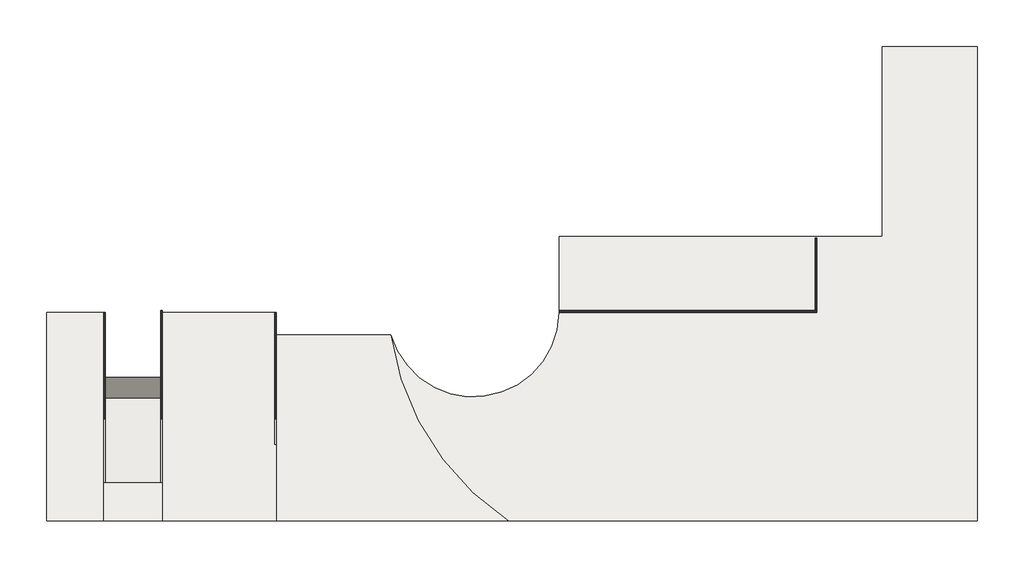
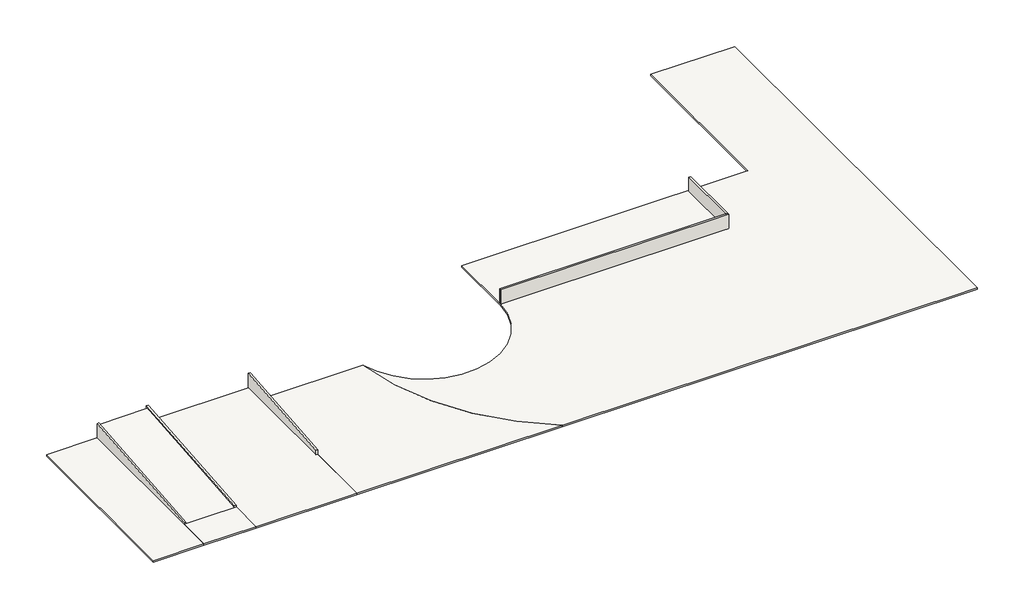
# One storey: 6 slabs, 5 walls.
"""IFC4 building model written with IfcOpenShell, lengths in millimetres."""

from ifc_helpers import new_model, si_unit, point, frame, frame_2d, origin, place, context, project, spatial, polyline, circle_curve, trimmed, segment, composite_curve, outline, extrude, faceted_brep, element, save
from ifc_brep_helpers import plane_surface, revolved_surface, advanced_brep

model = new_model("IFC4")

# Units and contexts
model_context = context("Model", 3, world=origin())
ifc_project = project(units=[si_unit("LENGTHUNIT", "METRE", prefix="MILLI")], contexts=[model_context])

# Site, building, storey
site = spatial("IfcSite", under=ifc_project)
building = spatial("IfcBuilding", under=site)
storey = spatial("IfcBuildingStorey", under=building, Name="b-st lvl", Elevation=-2590.8)

# Slabs
placement = place(None, origin())
element("IfcSlab", 1, ObjectType="a_drive", at=placement, inside=storey, context=model_context, shape_type="SweptSolid", body=[
    extrude(outline(polyline([(5654.8071029, -458.4117136), (-21664.2841582, -2896.8117136), (-21664.2841582, -2590.8), (5654.8071029, -152.4), (5654.8071029, -458.4117136)])), frame((-165310.490902, 0.0, 0.0), z_axis=(1.0, 0.0, 0.0), x_axis=(0.0, 1.0, 0.0)), (0.0, 0.0, 1.0), 8839.2),
])
element("IfcSlab", 2, ObjectType="a_drive", at=placement, inside=storey, context=model_context, shape_type="SweptSolid", body=[
    extrude(outline(polyline([(-165615.290902, -21664.2841582), (-156166.490902, -21664.2841582), (-156166.490902, -27873.1928971), (-165615.290902, -27873.1928971), (-165615.290902, -21664.2841582)])), frame((0.0, 0.0, -2895.6), z_axis=(0.0, 0.0, 1.0), x_axis=(1.0, 0.0, 0.0)), (0.0, 0.0, 1.0), 304.8),
])
element("IfcSlab", 3, ObjectType="a_site field", at=placement, inside=storey, context=model_context, shape_type="SweptSolid", body=[
    extrude(outline(composite_curve([segment(polyline([(-92463.290902, 17846.8071029), (-40647.290902, 17846.8071029), (-40647.290902, 48326.8071029), (-25407.290902, 48326.8071029), (-25407.290902, -27873.1928971), (-100689.4490619, -27873.1928971)]), True, "CONTINUOUS"), segment(trimmed(circle_curve(frame_2d((-77509.2044068, 7603.3217997)), 42378.1410317), [point((-100689.4490619, -27873.1928971))], [point((-119518.2803402, 2022.607103))], False, "CARTESIAN"), True, "CONTINUOUS"), segment(trimmed(circle_curve(frame_2d((-106262.3019593, 5863.5244654)), 13801.2176644), [point((-119518.2803402, 2022.607103))], [point((-92463.290902, 5616.7394142))], True, "CARTESIAN"), True, "CONTINUOUS"), segment(polyline([(-92463.290902, 5616.7394142), (-92463.290902, 17846.8071029)]), True, "CONTINUOUS")], self_intersect=False)), frame((0.0, 0.0, -2895.6), z_axis=(0.0, 0.0, 1.0), x_axis=(1.0, 0.0, 0.0)), (0.0, 0.0, 1.0), 304.8),
])
element("IfcSlab", 4, ObjectType="a_site field", at=placement, inside=storey, context=model_context, shape_type="SweptSolid", body=[
    extrude(outline(polyline([(-174759.290902, 5654.8071029), (-165615.290902, 5654.8071029), (-165615.290902, -27873.1928971), (-174759.290902, -27873.1928971), (-174759.290902, 5654.8071029)])), frame((0.0, 0.0, -2895.6), z_axis=(0.0, 0.0, 1.0), x_axis=(1.0, 0.0, 0.0)), (0.0, 0.0, 1.0), 304.8),
])
element("IfcSlab", 5, ObjectType="a_site field", at=placement, inside=storey, context=model_context, shape_type="SweptSolid", body=[
    extrude(outline(polyline([(-156166.490902, 5654.8071029), (-137878.490902, 5654.8071029), (-137878.490902, -27873.1928971), (-156166.490902, -27873.1928971), (-156166.490902, 5654.8071029)])), frame((0.0, 0.0, -2895.6), z_axis=(0.0, 0.0, 1.0), x_axis=(1.0, 0.0, 0.0)), (0.0, 0.0, 1.0), 304.8),
])
element("IfcSlab", 6, ObjectType="a_site paving", at=placement, inside=storey, context=model_context, shape_type="SweptSolid", body=[
    extrude(outline(composite_curve([segment(polyline([(-137878.490902, 2022.6071029), (-119518.2803402, 2022.6071029)]), True, "CONTINUOUS"), segment(trimmed(circle_curve(frame_2d((-76680.581577, 8125.201109)), 43270.1986236), [point((-119518.2803402, 2022.6071029))], [point((-100689.4490619, -27873.1928971))], True, "CARTESIAN"), True, "CONTINUOUS"), segment(polyline([(-100689.4490619, -27873.1928971), (-137878.490902, -27873.1928971), (-137878.490902, 2022.6071029)]), True, "CONTINUOUS")], self_intersect=False)), frame((0.0, 0.0, -2895.6), z_axis=(0.0, 0.0, 1.0), x_axis=(1.0, 0.0, 0.0)), (0.0, 0.0, 1.0), 304.8),
])

# Walls
element("IfcWall", 7, ObjectType="Generic - 12\"", at=placement, inside=storey, context=model_context, shape_type="SweptSolid", body=[
    extrude(outline(polyline([(-21664.2841582, -2590.8), (-21664.2841582, -2286.0), (5654.8071029, 138.8728072), (5654.8071029, -2590.8), (-21664.2841582, -2590.8)])), frame((-165615.290902, 0.0, 0.0), z_axis=(1.0, 0.0, 0.0), x_axis=(0.0, 1.0, 0.0)), (0.0, 0.0, 1.0), 304.8),
])
element("IfcWall", 8, ObjectType="Generic - 12\"", at=placement, inside=storey, context=model_context, shape_type="Brep", body=[
    faceted_brep([(-156166.490902, -21664.2841582, -2590.8), (-156166.490902, 5959.6071029, -2590.8), (-156166.490902, 5959.6071029, 152.4), (-156166.490902, 5959.6071029, 165.9271928), (-156166.490902, -21664.2841582, -2286.0), (-156471.290902, -21664.2841582, -2590.8), (-156471.290902, -21664.2841582, -2286.0), (-156471.290902, 5959.6071029, 165.9271928), (-156471.290902, 5959.6071029, 152.4), (-156471.290902, 5959.6071029, -152.4), (-156471.290902, 5959.6071029, -2590.8)], [[[0, 1, 2, 3, 4]], [[5, 6, 7, 8, 9, 10]], [[1, 0, 5, 10]], [[4, 3, 7, 6]], [[0, 4, 6, 5]], [[3, 2, 1, 10, 9, 8, 7]]]),
])
element("IfcWall", 9, ObjectType="Generic - 12\"", at=placement, inside=storey, context=model_context, shape_type="SweptSolid", body=[
    extrude(outline(polyline([(-15568.2841582, -2590.8), (-15568.2841582, -1744.9122862), (5654.8071029, 138.8728072), (5654.8071029, -2590.8), (-15568.2841582, -2590.8)])), frame((-138183.290902, 0.0, 0.0), z_axis=(1.0, 0.0, 0.0), x_axis=(0.0, 1.0, 0.0)), (0.0, 0.0, 1.0), 304.8),
])
element("IfcWall", 10, ObjectType="a_panel enamel", at=placement, inside=storey, context=model_context, shape_type="SweptSolid", body=[
    extrude(outline(polyline([(-51162.890902, 17542.0071029), (-51162.890902, 5959.6071029), (-51467.690902, 5959.6071029), (-51467.690902, 17542.0071029), (-51162.890902, 17542.0071029)])), frame((0.0, 0.0, -2590.8), z_axis=(0.0, 0.0, 1.0), x_axis=(1.0, 0.0, 0.0)), (0.0, 0.0, 1.0), 2743.2),
])
element("IfcWall", 11, ObjectType="a_panel enamel", at=placement, inside=storey, context=model_context, shape_type="AdvancedBrep", body=[
    advanced_brep(
    [(-51162.890902, 5959.6071029, -2590.8), (-51467.690902, 5959.6071029, -2590.8), (-92463.290902, 5959.6071029, -2590.8), (-92463.290902, 5959.6071029, 152.4), (-51467.690902, 5959.6071029, 152.4), (-51162.890902, 5959.6071029, 152.4), (-51162.890902, 5654.8071029, -2590.8), (-51162.890902, 5654.8071029, 152.4), (-92464.1329167, 5654.8071029, 152.4), (-92464.1329167, 5654.8071029, -2590.8), (-92463.290902, 5807.2071029, -2590.8), (-92463.290902, 5807.2071029, 152.4)],
    [
        (0, 1),
        (1, 2),
        (2, 3),
        (3, 4),
        (4, 5),
        (5, 0),
        (6, 7),
        (7, 8),
        (8, 9),
        (9, 6),
        (0, 6),
        (9, 10, circle_curve(frame((-106255.490902, 5807.2071029, -2590.8), z_axis=(0.0, 0.0, 1.0), x_axis=(0.0, -1.0, 0.0)), 13792.2)),
        (10, 2),
        (3, 11),
        (11, 8, circle_curve(frame((-106255.490902, 5807.2071029, 152.4), z_axis=(0.0, 0.0, -1.0), x_axis=(0.0, -1.0, 0.0)), 13792.2)),
        (7, 5),
        (10, 11),
    ],
    [
        plane_surface(frame((-51315.290902, 5959.6071029, -2590.8), z_axis=(0.0, 1.0, 0.0), x_axis=(-1.0, 0.0, 0.0))),
        plane_surface(frame((-51315.290902, 5654.8071029, -2590.8), z_axis=(0.0, -1.0, 0.0), x_axis=(1.0, 0.0, 0.0))),
        plane_surface(frame((-51315.290902, 5959.6071029, -2590.8), z_axis=(0.0, 0.0, -1.0), x_axis=(0.0, -1.0, 0.0))),
        plane_surface(frame((-92615.690902, 5959.6071029, 152.4), z_axis=(0.0, 0.0, 1.0), x_axis=(0.0, -1.0, 0.0))),
        plane_surface(frame((-51162.890902, 8855.2071029, -2590.8), z_axis=(1.0, 0.0, 0.0), x_axis=(0.0, 1.0, 0.0))),
        plane_surface(frame((-92463.290902, 26457.4071029, -2727.96), z_axis=(-1.0, 0.0, 0.0), x_axis=(0.0, -1.0, 0.0))),
        revolved_surface(polyline([(-106255.490902, -7984.992897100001, 152.4000000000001), (-106255.490902, -7984.992897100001, -2590.8)]), (-106255.490902, 5807.2071029, -2727.96), (0.0, 0.0, 1.0)),
    ],
    [
        (0, [[1, 2, 3, 4, 5, 6]]),
        (1, [[7, 8, 9, 10]]),
        (2, [[-2, -1, 11, -10, 12, 13]]),
        (3, [[-5, -4, 14, 15, -8, 16]]),
        (4, [[-6, -16, -7, -11]]),
        (5, [[-3, -13, 17, -14]]),
        (6, [[-12, -9, -15, -17]]),
    ],
),
])

save(model, "model.ifc")
